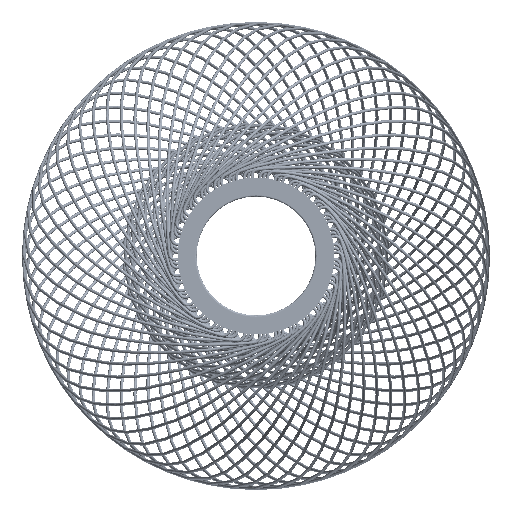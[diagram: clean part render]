
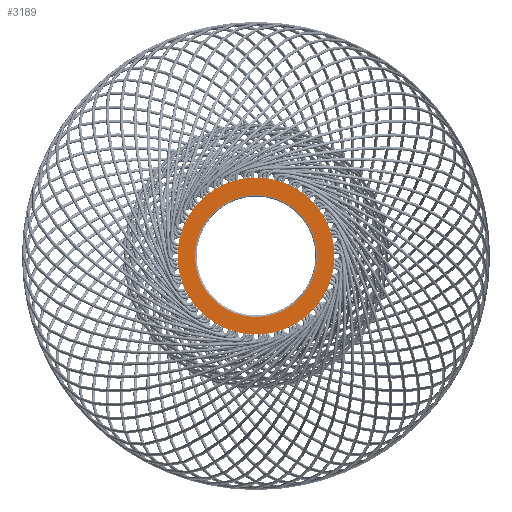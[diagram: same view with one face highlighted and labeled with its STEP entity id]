
A CAD part, front view. The second image highlights one B-rep face of the part: STEP entity #3189.
In plain terms, the highlighted planar face has unit normal (0, -1, 0).
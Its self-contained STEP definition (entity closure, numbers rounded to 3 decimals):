
#2082 = CARTESIAN_POINT ( 'NONE',  ( 0., 0., 0. ) ) ;
#2083 = DIRECTION ( 'NONE',  ( 0., 1., 0. ) ) ;
#2084 = DIRECTION ( 'NONE',  ( 0., 0., 1. ) ) ;
#2110 = CARTESIAN_POINT ( 'NONE',  ( 0., 0., 0. ) ) ;
#2111 = CARTESIAN_POINT ( 'NONE',  ( 0., 0., 0. ) ) ;
#2112 = DIRECTION ( 'NONE',  ( 0., 1., 0. ) ) ;
#2113 = DIRECTION ( 'NONE',  ( 0., 0., 1. ) ) ;
#2118 = DIRECTION ( 'NONE',  ( 0., 1., 0. ) ) ;
#2119 = DIRECTION ( 'NONE',  ( 0., 0., 1. ) ) ;
#3189 = ADVANCED_FACE ( 'NONE', ( #6305, #6314 ), #5646, .T. ) ;
#4370 = CARTESIAN_POINT ( 'NONE',  ( 0., 0., -78.5 ) ) ;
#4377 = CARTESIAN_POINT ( 'NONE',  ( 0., 0., 101. ) ) ;
#4380 = CARTESIAN_POINT ( 'NONE',  ( 0., 0., 78.5 ) ) ;
#4383 = CARTESIAN_POINT ( 'NONE',  ( 0., 0., -101. ) ) ;
#5644 = CARTESIAN_POINT ( 'NONE',  ( 78.5, 0., 0. ) ) ;
#5646 = PLANE ( 'NONE',  #9418 ) ;
#5649 = DIRECTION ( 'NONE',  ( 0., -1., 0. ) ) ;
#5651 = DIRECTION ( 'NONE',  ( 0., 0., -1. ) ) ;
#6305 = FACE_BOUND ( 'NONE', #8703, .T. ) ;
#6314 = FACE_OUTER_BOUND ( 'NONE', #8704, .T. ) ;
#7486 = ORIENTED_EDGE ( 'NONE', *, *, #9020, .T. ) ;
#7487 = ORIENTED_EDGE ( 'NONE', *, *, #7544, .T. ) ;
#7488 = ORIENTED_EDGE ( 'NONE', *, *, #7524, .F. ) ;
#7489 = ORIENTED_EDGE ( 'NONE', *, *, #7541, .F. ) ;
#7524 = EDGE_CURVE ( 'NONE', #13375, #13381, #11303, .T. ) ;
#7541 = EDGE_CURVE ( 'NONE', #13381, #13375, #11315, .T. ) ;
#7544 = EDGE_CURVE ( 'NONE', #13368, #13378, #11318, .T. ) ;
#8703 = EDGE_LOOP ( 'NONE', ( #7486, #7487 ) ) ;
#8704 = EDGE_LOOP ( 'NONE', ( #7488, #7489 ) ) ;
#9020 = EDGE_CURVE ( 'NONE', #13378, #13368, #10378, .T. ) ;
#9418 = AXIS2_PLACEMENT_3D ( 'NONE', #5644, #5649, #5651 ) ;
#10265 = CARTESIAN_POINT ( 'NONE',  ( 0., 0., 0. ) ) ;
#10267 = DIRECTION ( 'NONE',  ( 0., 1., 0. ) ) ;
#10268 = DIRECTION ( 'NONE',  ( 0., 0., 1. ) ) ;
#10378 = CIRCLE ( 'NONE', #12200, 78.5 ) ;
#11303 = CIRCLE ( 'NONE', #12046, 101. ) ;
#11315 = CIRCLE ( 'NONE', #12056, 101. ) ;
#11318 = CIRCLE ( 'NONE', #12058, 78.5 ) ;
#12046 = AXIS2_PLACEMENT_3D ( 'NONE', #2082, #2083, #2084 ) ;
#12056 = AXIS2_PLACEMENT_3D ( 'NONE', #2110, #2112, #2113 ) ;
#12058 = AXIS2_PLACEMENT_3D ( 'NONE', #2111, #2118, #2119 ) ;
#12200 = AXIS2_PLACEMENT_3D ( 'NONE', #10265, #10267, #10268 ) ;
#13368 = VERTEX_POINT ( 'NONE', #4370 ) ;
#13375 = VERTEX_POINT ( 'NONE', #4377 ) ;
#13378 = VERTEX_POINT ( 'NONE', #4380 ) ;
#13381 = VERTEX_POINT ( 'NONE', #4383 ) ;
